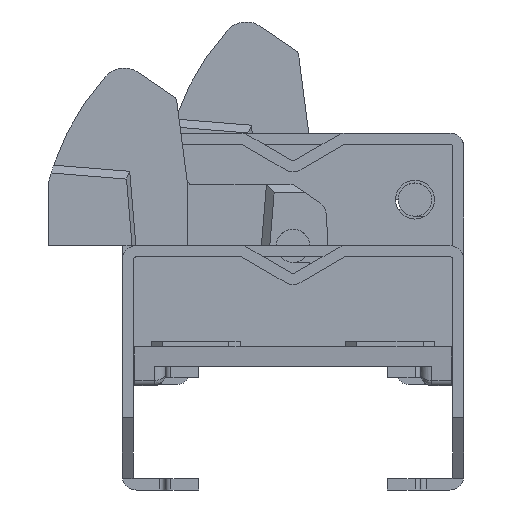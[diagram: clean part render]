
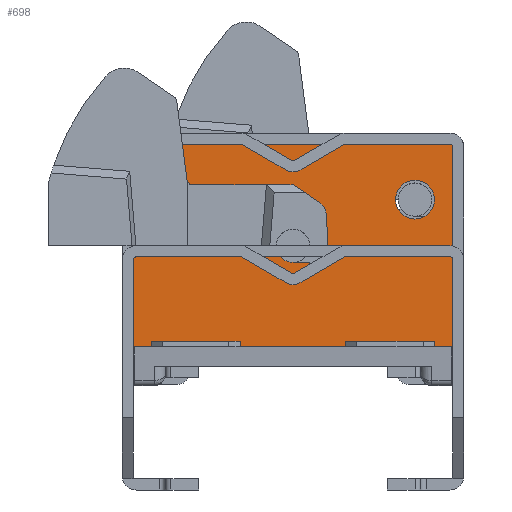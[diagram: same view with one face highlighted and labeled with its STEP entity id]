
A CAD part, front view. The second image highlights one B-rep face of the part: STEP entity #698.
In plain terms, the highlighted planar face has unit normal (0, -1, 0).
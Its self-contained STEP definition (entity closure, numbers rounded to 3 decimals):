
#698 = ADVANCED_FACE( '', ( #1429, #1430 ), #1431, .F. );
#1429 = FACE_BOUND( '', #2331, .T. );
#1430 = FACE_OUTER_BOUND( '', #2332, .T. );
#1431 = PLANE( '', #2333 );
#2331 = EDGE_LOOP( '', ( #4363 ) );
#2332 = EDGE_LOOP( '', ( #4364, #4365, #4366, #4367 ) );
#2333 = AXIS2_PLACEMENT_3D( '', #4368, #4369, #4370 );
#4363 = ORIENTED_EDGE( '', *, *, #5958, .T. );
#4364 = ORIENTED_EDGE( '', *, *, #5647, .T. );
#4365 = ORIENTED_EDGE( '', *, *, #5959, .F. );
#4366 = ORIENTED_EDGE( '', *, *, #5960, .F. );
#4367 = ORIENTED_EDGE( '', *, *, #5961, .T. );
#4368 = CARTESIAN_POINT( '', ( -2.875, 0., 1.83 ) );
#4369 = DIRECTION( '', ( 0., 1., 0. ) );
#4370 = DIRECTION( '', ( 0., 0., 1. ) );
#5647 = EDGE_CURVE( '', #7043, #7040, #7044, .T. );
#5958 = EDGE_CURVE( '', #7452, #7452, #7453, .T. );
#5959 = EDGE_CURVE( '', #7454, #7040, #7455, .T. );
#5960 = EDGE_CURVE( '', #7456, #7454, #7457, .T. );
#5961 = EDGE_CURVE( '', #7456, #7043, #7458, .T. );
#7040 = VERTEX_POINT( '', #9101 );
#7043 = VERTEX_POINT( '', #9105 );
#7044 = LINE( '', #9106, #9107 );
#7452 = VERTEX_POINT( '', #9715 );
#7453 = CIRCLE( '', #9716, 0.35 );
#7454 = VERTEX_POINT( '', #9717 );
#7455 = LINE( '', #9718, #9719 );
#7456 = VERTEX_POINT( '', #9720 );
#7457 = LINE( '', #9721, #9722 );
#7458 = LINE( '', #9723, #9724 );
#9101 = CARTESIAN_POINT( '', ( 2.875, 0., -1.821 ) );
#9105 = CARTESIAN_POINT( '', ( -2.875, 0., -1.821 ) );
#9106 = CARTESIAN_POINT( '', ( -2.875, 0., -1.821 ) );
#9107 = VECTOR( '', #10639, 1000. );
#9715 = CARTESIAN_POINT( '', ( 2.545, 0., 0.83 ) );
#9716 = AXIS2_PLACEMENT_3D( '', #10945, #10946, #10947 );
#9717 = CARTESIAN_POINT( '', ( 2.875, 0., 1.83 ) );
#9718 = CARTESIAN_POINT( '', ( 2.875, 0., 1.83 ) );
#9719 = VECTOR( '', #10948, 1000. );
#9720 = CARTESIAN_POINT( '', ( -2.875, 0., 1.83 ) );
#9721 = CARTESIAN_POINT( '', ( -2.875, 0., 1.83 ) );
#9722 = VECTOR( '', #10949, 1000. );
#9723 = CARTESIAN_POINT( '', ( -2.875, 0., 1.83 ) );
#9724 = VECTOR( '', #10950, 1000. );
#10639 = DIRECTION( '', ( 1., 0., 0. ) );
#10945 = CARTESIAN_POINT( '', ( 2.195, 0., 0.83 ) );
#10946 = DIRECTION( '', ( 0., 1., 0. ) );
#10947 = DIRECTION( '', ( 1., 0., 0. ) );
#10948 = DIRECTION( '', ( 0., 0., -1. ) );
#10949 = DIRECTION( '', ( 1., 0., 0. ) );
#10950 = DIRECTION( '', ( 0., 0., -1. ) );
